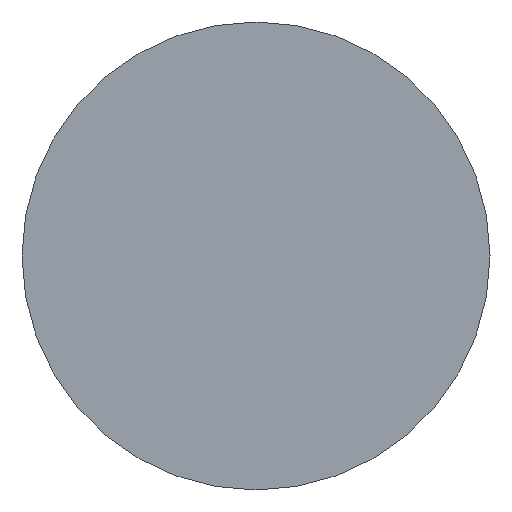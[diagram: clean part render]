
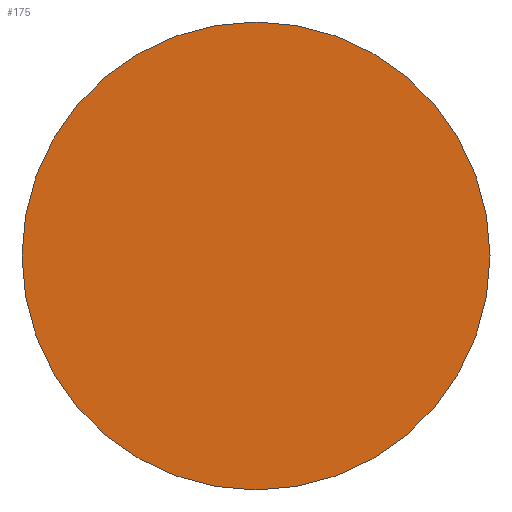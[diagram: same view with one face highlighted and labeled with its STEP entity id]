
A CAD part, front view. The second image highlights one B-rep face of the part: STEP entity #175.
In plain terms, the highlighted planar face has unit normal (0, -1, 0).
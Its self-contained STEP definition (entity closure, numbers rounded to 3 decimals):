
#9 = VERTEX_POINT ( 'NONE', #146 ) ;
#10 = EDGE_CURVE ( 'NONE', #9, #47, #163, .T. ) ;
#16 = FACE_OUTER_BOUND ( 'NONE', #114, .T. ) ;
#33 = CARTESIAN_POINT ( 'NONE',  ( 0., 0., -2.5 ) ) ;
#47 = VERTEX_POINT ( 'NONE', #33 ) ;
#87 = PLANE ( 'NONE',  #106 ) ;
#88 = CARTESIAN_POINT ( 'NONE',  ( 0., 0., 0. ) ) ;
#90 = DIRECTION ( 'NONE',  ( 0., 0., 1. ) ) ;
#92 = DIRECTION ( 'NONE',  ( 0., 0., 1. ) ) ;
#105 = CIRCLE ( 'NONE', #133, 2.5 ) ;
#106 = AXIS2_PLACEMENT_3D ( 'NONE', #195, #116, #92 ) ;
#112 = DIRECTION ( 'NONE',  ( 0., 1., 0. ) ) ;
#114 = EDGE_LOOP ( 'NONE', ( #137, #134 ) ) ;
#116 = DIRECTION ( 'NONE',  ( 0., 1., 0. ) ) ;
#133 = AXIS2_PLACEMENT_3D ( 'NONE', #88, #112, #90 ) ;
#134 = ORIENTED_EDGE ( 'NONE', *, *, #10, .F. ) ;
#137 = ORIENTED_EDGE ( 'NONE', *, *, #155, .F. ) ;
#144 = DIRECTION ( 'NONE',  ( 0., 1., 0. ) ) ;
#146 = CARTESIAN_POINT ( 'NONE',  ( 0., 0., 2.5 ) ) ;
#155 = EDGE_CURVE ( 'NONE', #47, #9, #105, .T. ) ;
#158 = DIRECTION ( 'NONE',  ( 0., 0., 1. ) ) ;
#163 = CIRCLE ( 'NONE', #169, 2.5 ) ;
#169 = AXIS2_PLACEMENT_3D ( 'NONE', #210, #144, #158 ) ;
#175 = ADVANCED_FACE ( 'NONE', ( #16 ), #87, .F. ) ;
#195 = CARTESIAN_POINT ( 'NONE',  ( 0., 0., 0. ) ) ;
#210 = CARTESIAN_POINT ( 'NONE',  ( 0., 0., 0. ) ) ;
